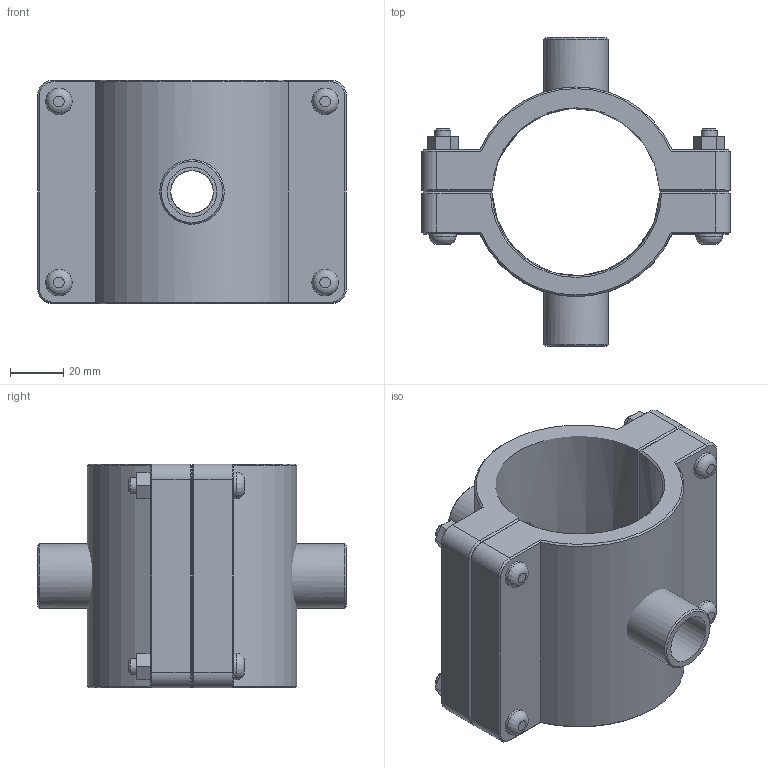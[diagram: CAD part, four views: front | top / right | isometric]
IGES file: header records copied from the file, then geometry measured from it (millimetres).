
Global section: file name: 161760063005_161860063005.ipt; native system: Autodesk Inventor 2015; preprocessor: unknown; author: KIM; date: 20170618.093701; units: millimetre
Bounding box: 116 x 116 x 84 mm (x, y, z)
Volume: 260006.4 mm3; surface area: 66451.6 mm2
Topology: 3 solids, 3 shells, 151 faces, 350 edges, 221 vertices
Faces by surface type: plane 84, cone 26, cylinder 24, revolution 17
Full cylindrical faces by diameter (mm): 6 x4, 10 x8, 24.22 x2
